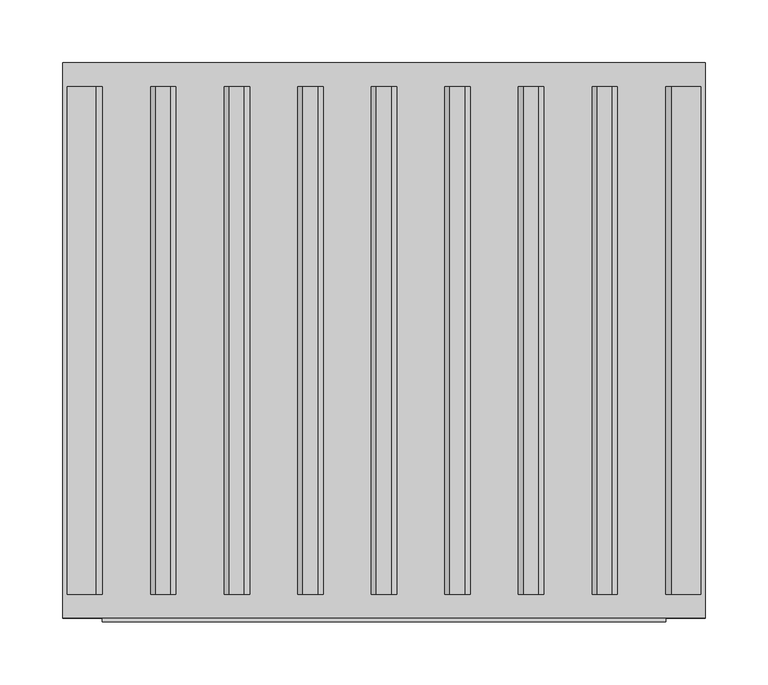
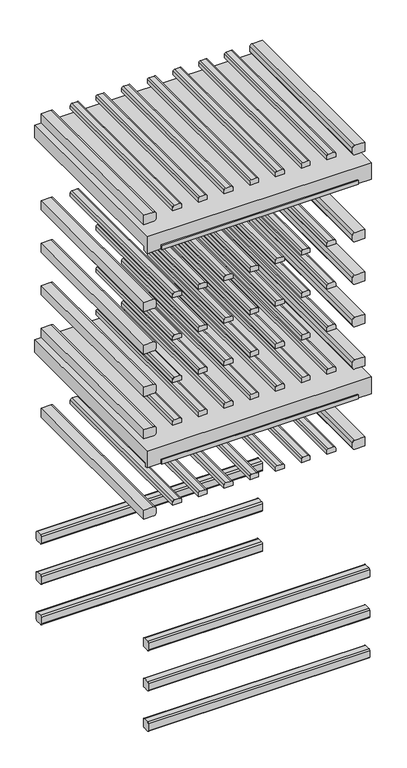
"""IFC4 building model written with IfcOpenShell, lengths in millimetres: proxy geometry, 11503590_USA_KWT2602Vi : 36260205_USA_11503590_KWT2602Vi."""

from ifc_helpers import new_model, si_unit, point, frame, frame_2d, origin, place, context, project, spatial, polyline, circle_curve, trimmed, segment, composite_curve, outline, extrude, faceted_brep, source, transform, mapped, element, save


def specialty_equipment_b9ffa979(model_context):
    return source(origin(), model_context, "Body", "SolidModel", [
        extrude(outline(composite_curve([segment(polyline([(884.0, -252.0), (862.0, -252.0), (862.0, -229.0)]), True, "CONTINUOUS"), segment(trimmed(circle_curve(frame_2d((867.0, -229.0)), 5.0), [point((862.0, -229.0))], [point((867.0, -224.0))], False, "CARTESIAN"), True, "CONTINUOUS"), segment(polyline([(867.0, -224.0), (879.0, -224.0)]), True, "CONTINUOUS"), segment(trimmed(circle_curve(frame_2d((879.0, -229.0)), 5.0), [point((879.0, -224.0))], [point((884.0, -229.0))], False, "CARTESIAN"), True, "CONTINUOUS"), segment(polyline([(884.0, -229.0), (884.0, -252.0)]), True, "CONTINUOUS")], self_intersect=False)), frame((0.0, 69.0, 0.0), z_axis=(0.0, 1.0, 0.0), x_axis=(0.0, 0.0, 1.0)), (0.0, 0.0, 1.0), 404.0),
        extrude(outline(composite_curve([segment(polyline([(880.0, -185.5), (872.039218, -185.5), (872.039218, -165.5), (880.0, -165.5)]), True, "CONTINUOUS"), segment(trimmed(circle_curve(frame_2d((880.0, -169.5)), 4.0), [point((880.0, -165.5))], [point((884.0, -169.5))], False, "CARTESIAN"), True, "CONTINUOUS"), segment(polyline([(884.0, -169.5), (884.0, -181.5)]), True, "CONTINUOUS"), segment(trimmed(circle_curve(frame_2d((880.0, -181.5)), 4.0), [point((884.0, -181.5))], [point((880.0, -185.5))], False, "CARTESIAN"), True, "CONTINUOUS")], self_intersect=False)), frame((0.0, 69.0, 0.0), z_axis=(0.0, 1.0, 0.0), x_axis=(0.0, 0.0, 1.0)), (0.0, 0.0, 1.0), 404.0),
        extrude(outline(composite_curve([segment(polyline([(884.0, 252.0), (884.0, 229.0)]), True, "CONTINUOUS"), segment(trimmed(circle_curve(frame_2d((879.0, 229.0)), 5.0), [point((884.0, 229.0))], [point((879.0, 224.0))], False, "CARTESIAN"), True, "CONTINUOUS"), segment(polyline([(879.0, 224.0), (867.0, 224.0)]), True, "CONTINUOUS"), segment(trimmed(circle_curve(frame_2d((867.0, 229.0)), 5.0), [point((867.0, 224.0))], [point((862.0, 229.0))], False, "CARTESIAN"), True, "CONTINUOUS"), segment(polyline([(862.0, 229.0), (862.0, 252.0), (884.0, 252.0)]), True, "CONTINUOUS")], self_intersect=False)), frame((0.0, 69.0, 0.0), z_axis=(0.0, 1.0, 0.0), x_axis=(0.0, 0.0, 1.0)), (0.0, 0.0, 1.0), 404.0),
        extrude(outline(composite_curve([segment(polyline([(880.0, -127.0), (872.039218, -127.0), (872.039218, -107.0), (880.0, -107.0)]), True, "CONTINUOUS"), segment(trimmed(circle_curve(frame_2d((880.0, -111.0)), 4.0), [point((880.0, -107.0))], [point((884.0, -111.0))], False, "CARTESIAN"), True, "CONTINUOUS"), segment(polyline([(884.0, -111.0), (884.0, -123.0)]), True, "CONTINUOUS"), segment(trimmed(circle_curve(frame_2d((880.0, -123.0)), 4.0), [point((884.0, -123.0))], [point((880.0, -127.0))], False, "CARTESIAN"), True, "CONTINUOUS")], self_intersect=False)), frame((0.0, 69.0, 0.0), z_axis=(0.0, 1.0, 0.0), x_axis=(0.0, 0.0, 1.0)), (0.0, 0.0, 1.0), 404.0),
        extrude(outline(composite_curve([segment(polyline([(880.0, -68.5), (872.039218, -68.5), (872.039218, -48.5), (880.0, -48.5)]), True, "CONTINUOUS"), segment(trimmed(circle_curve(frame_2d((880.0, -52.5)), 4.0), [point((880.0, -48.5))], [point((884.0, -52.5))], False, "CARTESIAN"), True, "CONTINUOUS"), segment(polyline([(884.0, -52.5), (884.0, -64.5)]), True, "CONTINUOUS"), segment(trimmed(circle_curve(frame_2d((880.0, -64.5)), 4.0), [point((884.0, -64.5))], [point((880.0, -68.5))], False, "CARTESIAN"), True, "CONTINUOUS")], self_intersect=False)), frame((0.0, 69.0, 0.0), z_axis=(0.0, 1.0, 0.0), x_axis=(0.0, 0.0, 1.0)), (0.0, 0.0, 1.0), 404.0),
        extrude(outline(composite_curve([segment(polyline([(880.0, -10.0), (872.039218, -10.0), (872.039218, 10.0), (880.0, 10.0)]), True, "CONTINUOUS"), segment(trimmed(circle_curve(frame_2d((880.0, 6.0)), 4.0), [point((880.0, 10.0))], [point((884.0, 6.0))], False, "CARTESIAN"), True, "CONTINUOUS"), segment(polyline([(884.0, 6.0), (884.0, -6.0)]), True, "CONTINUOUS"), segment(trimmed(circle_curve(frame_2d((880.0, -6.0)), 4.0), [point((884.0, -6.0))], [point((880.0, -10.0))], False, "CARTESIAN"), True, "CONTINUOUS")], self_intersect=False)), frame((0.0, 69.0, 0.0), z_axis=(0.0, 1.0, 0.0), x_axis=(0.0, 0.0, 1.0)), (0.0, 0.0, 1.0), 404.0),
        extrude(outline(composite_curve([segment(polyline([(880.0, 48.5), (872.039218, 48.5), (872.039218, 68.5), (880.0, 68.5)]), True, "CONTINUOUS"), segment(trimmed(circle_curve(frame_2d((880.0, 64.5)), 4.0), [point((880.0, 68.5))], [point((884.0, 64.5))], False, "CARTESIAN"), True, "CONTINUOUS"), segment(polyline([(884.0, 64.5), (884.0, 52.5)]), True, "CONTINUOUS"), segment(trimmed(circle_curve(frame_2d((880.0, 52.5)), 4.0), [point((884.0, 52.5))], [point((880.0, 48.5))], False, "CARTESIAN"), True, "CONTINUOUS")], self_intersect=False)), frame((0.0, 69.0, 0.0), z_axis=(0.0, 1.0, 0.0), x_axis=(0.0, 0.0, 1.0)), (0.0, 0.0, 1.0), 404.0),
        extrude(outline(composite_curve([segment(polyline([(880.0, 107.0), (872.039218, 107.0), (872.039218, 127.0), (880.0, 127.0)]), True, "CONTINUOUS"), segment(trimmed(circle_curve(frame_2d((880.0, 123.0)), 4.0), [point((880.0, 127.0))], [point((884.0, 123.0))], False, "CARTESIAN"), True, "CONTINUOUS"), segment(polyline([(884.0, 123.0), (884.0, 111.0)]), True, "CONTINUOUS"), segment(trimmed(circle_curve(frame_2d((880.0, 111.0)), 4.0), [point((884.0, 111.0))], [point((880.0, 107.0))], False, "CARTESIAN"), True, "CONTINUOUS")], self_intersect=False)), frame((0.0, 69.0, 0.0), z_axis=(0.0, 1.0, 0.0), x_axis=(0.0, 0.0, 1.0)), (0.0, 0.0, 1.0), 404.0),
        extrude(outline(composite_curve([segment(polyline([(880.0, 165.5), (872.039218, 165.5), (872.039218, 185.5), (880.0, 185.5)]), True, "CONTINUOUS"), segment(trimmed(circle_curve(frame_2d((880.0, 181.5)), 4.0), [point((880.0, 185.5))], [point((884.0, 181.5))], False, "CARTESIAN"), True, "CONTINUOUS"), segment(polyline([(884.0, 181.5), (884.0, 169.5)]), True, "CONTINUOUS"), segment(trimmed(circle_curve(frame_2d((880.0, 169.5)), 4.0), [point((884.0, 169.5))], [point((880.0, 165.5))], False, "CARTESIAN"), True, "CONTINUOUS")], self_intersect=False)), frame((0.0, 69.0, 0.0), z_axis=(0.0, 1.0, 0.0), x_axis=(0.0, 0.0, 1.0)), (0.0, 0.0, 1.0), 404.0),
        extrude(outline(composite_curve([segment(polyline([(1077.0009591, -252.0), (1055.0, -252.0), (1055.0, -229.0)]), True, "CONTINUOUS"), segment(trimmed(circle_curve(frame_2d((1060.0, -229.0)), 5.0), [point((1055.0, -229.0))], [point((1060.0, -224.0))], False, "CARTESIAN"), True, "CONTINUOUS"), segment(polyline([(1060.0, -224.0), (1072.0009591, -224.0)]), True, "CONTINUOUS"), segment(trimmed(circle_curve(frame_2d((1072.0009591, -229.0)), 5.0), [point((1072.0009591, -224.0))], [point((1077.0009591, -229.0))], False, "CARTESIAN"), True, "CONTINUOUS"), segment(polyline([(1077.0009591, -229.0), (1077.0009591, -252.0)]), True, "CONTINUOUS")], self_intersect=False)), frame((0.0, 69.0, 0.0), z_axis=(0.0, 1.0, 0.0), x_axis=(0.0, 0.0, 1.0)), (0.0, 0.0, 1.0), 404.0),
        extrude(outline(composite_curve([segment(polyline([(1073.0009591, -185.5), (1065.039218, -185.5), (1065.039218, -165.5), (1073.0009591, -165.5)]), True, "CONTINUOUS"), segment(trimmed(circle_curve(frame_2d((1073.0009591, -169.5)), 4.0), [point((1073.0009591, -165.5))], [point((1077.0009591, -169.5))], False, "CARTESIAN"), True, "CONTINUOUS"), segment(polyline([(1077.0009591, -169.5), (1077.0009591, -181.5)]), True, "CONTINUOUS"), segment(trimmed(circle_curve(frame_2d((1073.0009591, -181.5)), 4.0), [point((1077.0009591, -181.5))], [point((1073.0009591, -185.5))], False, "CARTESIAN"), True, "CONTINUOUS")], self_intersect=False)), frame((0.0, 69.0, 0.0), z_axis=(0.0, 1.0, 0.0), x_axis=(0.0, 0.0, 1.0)), (0.0, 0.0, 1.0), 404.0),
        extrude(outline(composite_curve([segment(polyline([(1077.0009591, 252.0), (1077.0009591, 229.0)]), True, "CONTINUOUS"), segment(trimmed(circle_curve(frame_2d((1072.0009591, 229.0)), 5.0), [point((1077.0009591, 229.0))], [point((1072.0009591, 224.0))], False, "CARTESIAN"), True, "CONTINUOUS"), segment(polyline([(1072.0009591, 224.0), (1060.0, 224.0)]), True, "CONTINUOUS"), segment(trimmed(circle_curve(frame_2d((1060.0, 229.0)), 5.0), [point((1060.0, 224.0))], [point((1055.0, 229.0))], False, "CARTESIAN"), True, "CONTINUOUS"), segment(polyline([(1055.0, 229.0), (1055.0, 252.0), (1077.0009591, 252.0)]), True, "CONTINUOUS")], self_intersect=False)), frame((0.0, 69.0, 0.0), z_axis=(0.0, 1.0, 0.0), x_axis=(0.0, 0.0, 1.0)), (0.0, 0.0, 1.0), 404.0),
        extrude(outline(composite_curve([segment(polyline([(1073.0009591, -127.0), (1065.039218, -127.0), (1065.039218, -107.0), (1073.0009591, -107.0)]), True, "CONTINUOUS"), segment(trimmed(circle_curve(frame_2d((1073.0009591, -111.0)), 4.0), [point((1073.0009591, -107.0))], [point((1077.0009591, -111.0))], False, "CARTESIAN"), True, "CONTINUOUS"), segment(polyline([(1077.0009591, -111.0), (1077.0009591, -123.0)]), True, "CONTINUOUS"), segment(trimmed(circle_curve(frame_2d((1073.0009591, -123.0)), 4.0), [point((1077.0009591, -123.0))], [point((1073.0009591, -127.0))], False, "CARTESIAN"), True, "CONTINUOUS")], self_intersect=False)), frame((0.0, 69.0, 0.0), z_axis=(0.0, 1.0, 0.0), x_axis=(0.0, 0.0, 1.0)), (0.0, 0.0, 1.0), 404.0),
        extrude(outline(composite_curve([segment(polyline([(1073.0009591, -68.5), (1065.039218, -68.5), (1065.039218, -48.5), (1073.0009591, -48.5)]), True, "CONTINUOUS"), segment(trimmed(circle_curve(frame_2d((1073.0009591, -52.5)), 4.0), [point((1073.0009591, -48.5))], [point((1077.0009591, -52.5))], False, "CARTESIAN"), True, "CONTINUOUS"), segment(polyline([(1077.0009591, -52.5), (1077.0009591, -64.5)]), True, "CONTINUOUS"), segment(trimmed(circle_curve(frame_2d((1073.0009591, -64.5)), 4.0), [point((1077.0009591, -64.5))], [point((1073.0009591, -68.5))], False, "CARTESIAN"), True, "CONTINUOUS")], self_intersect=False)), frame((0.0, 69.0, 0.0), z_axis=(0.0, 1.0, 0.0), x_axis=(0.0, 0.0, 1.0)), (0.0, 0.0, 1.0), 404.0),
        extrude(outline(composite_curve([segment(polyline([(1073.0009591, -10.0), (1065.039218, -10.0), (1065.039218, 10.0), (1073.0009591, 10.0)]), True, "CONTINUOUS"), segment(trimmed(circle_curve(frame_2d((1073.0009591, 6.0)), 4.0), [point((1073.0009591, 10.0))], [point((1077.0009591, 6.0))], False, "CARTESIAN"), True, "CONTINUOUS"), segment(polyline([(1077.0009591, 6.0), (1077.0009591, -6.0)]), True, "CONTINUOUS"), segment(trimmed(circle_curve(frame_2d((1073.0009591, -6.0)), 4.0), [point((1077.0009591, -6.0))], [point((1073.0009591, -10.0))], False, "CARTESIAN"), True, "CONTINUOUS")], self_intersect=False)), frame((0.0, 69.0, 0.0), z_axis=(0.0, 1.0, 0.0), x_axis=(0.0, 0.0, 1.0)), (0.0, 0.0, 1.0), 404.0),
        extrude(outline(composite_curve([segment(polyline([(1073.0009591, 48.5), (1065.039218, 48.5), (1065.039218, 68.5), (1073.0009591, 68.5)]), True, "CONTINUOUS"), segment(trimmed(circle_curve(frame_2d((1073.0009591, 64.5)), 4.0), [point((1073.0009591, 68.5))], [point((1077.0009591, 64.5))], False, "CARTESIAN"), True, "CONTINUOUS"), segment(polyline([(1077.0009591, 64.5), (1077.0009591, 52.5)]), True, "CONTINUOUS"), segment(trimmed(circle_curve(frame_2d((1073.0009591, 52.5)), 4.0), [point((1077.0009591, 52.5))], [point((1073.0009591, 48.5))], False, "CARTESIAN"), True, "CONTINUOUS")], self_intersect=False)), frame((0.0, 69.0, 0.0), z_axis=(0.0, 1.0, 0.0), x_axis=(0.0, 0.0, 1.0)), (0.0, 0.0, 1.0), 404.0),
        extrude(outline(composite_curve([segment(polyline([(1073.0009591, 107.0), (1065.039218, 107.0), (1065.039218, 127.0), (1073.0009591, 127.0)]), True, "CONTINUOUS"), segment(trimmed(circle_curve(frame_2d((1073.0009591, 123.0)), 4.0), [point((1073.0009591, 127.0))], [point((1077.0009591, 123.0))], False, "CARTESIAN"), True, "CONTINUOUS"), segment(polyline([(1077.0009591, 123.0), (1077.0009591, 111.0)]), True, "CONTINUOUS"), segment(trimmed(circle_curve(frame_2d((1073.0009591, 111.0)), 4.0), [point((1077.0009591, 111.0))], [point((1073.0009591, 107.0))], False, "CARTESIAN"), True, "CONTINUOUS")], self_intersect=False)), frame((0.0, 69.0, 0.0), z_axis=(0.0, 1.0, 0.0), x_axis=(0.0, 0.0, 1.0)), (0.0, 0.0, 1.0), 404.0),
        extrude(outline(composite_curve([segment(polyline([(1073.0009591, 165.5), (1065.039218, 165.5), (1065.039218, 185.5), (1073.0009591, 185.5)]), True, "CONTINUOUS"), segment(trimmed(circle_curve(frame_2d((1073.0009591, 181.5)), 4.0), [point((1073.0009591, 185.5))], [point((1077.0009591, 181.5))], False, "CARTESIAN"), True, "CONTINUOUS"), segment(polyline([(1077.0009591, 181.5), (1077.0009591, 169.5)]), True, "CONTINUOUS"), segment(trimmed(circle_curve(frame_2d((1073.0009591, 169.5)), 4.0), [point((1077.0009591, 169.5))], [point((1073.0009591, 165.5))], False, "CARTESIAN"), True, "CONTINUOUS")], self_intersect=False)), frame((0.0, 69.0, 0.0), z_axis=(0.0, 1.0, 0.0), x_axis=(0.0, 0.0, 1.0)), (0.0, 0.0, 1.0), 404.0),
        extrude(outline(composite_curve([segment(polyline([(1179.0, -252.0), (1157.0, -252.0), (1157.0, -229.0)]), True, "CONTINUOUS"), segment(trimmed(circle_curve(frame_2d((1162.0, -229.0)), 5.0), [point((1157.0, -229.0))], [point((1162.0, -224.0))], False, "CARTESIAN"), True, "CONTINUOUS"), segment(polyline([(1162.0, -224.0), (1174.0, -224.0)]), True, "CONTINUOUS"), segment(trimmed(circle_curve(frame_2d((1174.0, -229.0)), 5.0), [point((1174.0, -224.0))], [point((1179.0, -229.0))], False, "CARTESIAN"), True, "CONTINUOUS"), segment(polyline([(1179.0, -229.0), (1179.0, -252.0)]), True, "CONTINUOUS")], self_intersect=False)), frame((0.0, 69.0, 0.0), z_axis=(0.0, 1.0, 0.0), x_axis=(0.0, 0.0, 1.0)), (0.0, 0.0, 1.0), 404.0),
        extrude(outline(composite_curve([segment(polyline([(1175.0, -185.5), (1167.039218, -185.5), (1167.039218, -165.5), (1175.0, -165.5)]), True, "CONTINUOUS"), segment(trimmed(circle_curve(frame_2d((1175.0, -169.5)), 4.0), [point((1175.0, -165.5))], [point((1179.0, -169.5))], False, "CARTESIAN"), True, "CONTINUOUS"), segment(polyline([(1179.0, -169.5), (1179.0, -181.5)]), True, "CONTINUOUS"), segment(trimmed(circle_curve(frame_2d((1175.0, -181.5)), 4.0), [point((1179.0, -181.5))], [point((1175.0, -185.5))], False, "CARTESIAN"), True, "CONTINUOUS")], self_intersect=False)), frame((0.0, 69.0, 0.0), z_axis=(0.0, 1.0, 0.0), x_axis=(0.0, 0.0, 1.0)), (0.0, 0.0, 1.0), 404.0),
        extrude(outline(composite_curve([segment(polyline([(1179.0, 252.0), (1179.0, 229.0)]), True, "CONTINUOUS"), segment(trimmed(circle_curve(frame_2d((1174.0, 229.0)), 5.0), [point((1179.0, 229.0))], [point((1174.0, 224.0))], False, "CARTESIAN"), True, "CONTINUOUS"), segment(polyline([(1174.0, 224.0), (1162.0, 224.0)]), True, "CONTINUOUS"), segment(trimmed(circle_curve(frame_2d((1162.0, 229.0)), 5.0), [point((1162.0, 224.0))], [point((1157.0, 229.0))], False, "CARTESIAN"), True, "CONTINUOUS"), segment(polyline([(1157.0, 229.0), (1157.0, 252.0), (1179.0, 252.0)]), True, "CONTINUOUS")], self_intersect=False)), frame((0.0, 69.0, 0.0), z_axis=(0.0, 1.0, 0.0), x_axis=(0.0, 0.0, 1.0)), (0.0, 0.0, 1.0), 404.0),
        extrude(outline(composite_curve([segment(polyline([(1175.0, -127.0), (1167.039218, -127.0), (1167.039218, -107.0), (1175.0, -107.0)]), True, "CONTINUOUS"), segment(trimmed(circle_curve(frame_2d((1175.0, -111.0)), 4.0), [point((1175.0, -107.0))], [point((1179.0, -111.0))], False, "CARTESIAN"), True, "CONTINUOUS"), segment(polyline([(1179.0, -111.0), (1179.0, -123.0)]), True, "CONTINUOUS"), segment(trimmed(circle_curve(frame_2d((1175.0, -123.0)), 4.0), [point((1179.0, -123.0))], [point((1175.0, -127.0))], False, "CARTESIAN"), True, "CONTINUOUS")], self_intersect=False)), frame((0.0, 69.0, 0.0), z_axis=(0.0, 1.0, 0.0), x_axis=(0.0, 0.0, 1.0)), (0.0, 0.0, 1.0), 404.0),
        extrude(outline(composite_curve([segment(polyline([(1175.0, -68.5), (1167.039218, -68.5), (1167.039218, -48.5), (1175.0, -48.5)]), True, "CONTINUOUS"), segment(trimmed(circle_curve(frame_2d((1175.0, -52.5)), 4.0), [point((1175.0, -48.5))], [point((1179.0, -52.5))], False, "CARTESIAN"), True, "CONTINUOUS"), segment(polyline([(1179.0, -52.5), (1179.0, -64.5)]), True, "CONTINUOUS"), segment(trimmed(circle_curve(frame_2d((1175.0, -64.5)), 4.0), [point((1179.0, -64.5))], [point((1175.0, -68.5))], False, "CARTESIAN"), True, "CONTINUOUS")], self_intersect=False)), frame((0.0, 69.0, 0.0), z_axis=(0.0, 1.0, 0.0), x_axis=(0.0, 0.0, 1.0)), (0.0, 0.0, 1.0), 404.0),
        extrude(outline(composite_curve([segment(polyline([(1175.0, -10.0), (1167.039218, -10.0), (1167.039218, 10.0), (1175.0, 10.0)]), True, "CONTINUOUS"), segment(trimmed(circle_curve(frame_2d((1175.0, 6.0)), 4.0), [point((1175.0, 10.0))], [point((1179.0, 6.0))], False, "CARTESIAN"), True, "CONTINUOUS"), segment(polyline([(1179.0, 6.0), (1179.0, -6.0)]), True, "CONTINUOUS"), segment(trimmed(circle_curve(frame_2d((1175.0, -6.0)), 4.0), [point((1179.0, -6.0))], [point((1175.0, -10.0))], False, "CARTESIAN"), True, "CONTINUOUS")], self_intersect=False)), frame((0.0, 69.0, 0.0), z_axis=(0.0, 1.0, 0.0), x_axis=(0.0, 0.0, 1.0)), (0.0, 0.0, 1.0), 404.0),
        extrude(outline(composite_curve([segment(polyline([(1175.0, 48.5), (1167.039218, 48.5), (1167.039218, 68.5), (1175.0, 68.5)]), True, "CONTINUOUS"), segment(trimmed(circle_curve(frame_2d((1175.0, 64.5)), 4.0), [point((1175.0, 68.5))], [point((1179.0, 64.5))], False, "CARTESIAN"), True, "CONTINUOUS"), segment(polyline([(1179.0, 64.5), (1179.0, 52.5)]), True, "CONTINUOUS"), segment(trimmed(circle_curve(frame_2d((1175.0, 52.5)), 4.0), [point((1179.0, 52.5))], [point((1175.0, 48.5))], False, "CARTESIAN"), True, "CONTINUOUS")], self_intersect=False)), frame((0.0, 69.0, 0.0), z_axis=(0.0, 1.0, 0.0), x_axis=(0.0, 0.0, 1.0)), (0.0, 0.0, 1.0), 404.0),
        extrude(outline(composite_curve([segment(polyline([(1175.0, 107.0), (1167.039218, 107.0), (1167.039218, 127.0), (1175.0, 127.0)]), True, "CONTINUOUS"), segment(trimmed(circle_curve(frame_2d((1175.0, 123.0)), 4.0), [point((1175.0, 127.0))], [point((1179.0, 123.0))], False, "CARTESIAN"), True, "CONTINUOUS"), segment(polyline([(1179.0, 123.0), (1179.0, 111.0)]), True, "CONTINUOUS"), segment(trimmed(circle_curve(frame_2d((1175.0, 111.0)), 4.0), [point((1179.0, 111.0))], [point((1175.0, 107.0))], False, "CARTESIAN"), True, "CONTINUOUS")], self_intersect=False)), frame((0.0, 69.0, 0.0), z_axis=(0.0, 1.0, 0.0), x_axis=(0.0, 0.0, 1.0)), (0.0, 0.0, 1.0), 404.0),
        extrude(outline(composite_curve([segment(polyline([(1175.0, 165.5), (1167.039218, 165.5), (1167.039218, 185.5), (1175.0, 185.5)]), True, "CONTINUOUS"), segment(trimmed(circle_curve(frame_2d((1175.0, 181.5)), 4.0), [point((1175.0, 185.5))], [point((1179.0, 181.5))], False, "CARTESIAN"), True, "CONTINUOUS"), segment(polyline([(1179.0, 181.5), (1179.0, 169.5)]), True, "CONTINUOUS"), segment(trimmed(circle_curve(frame_2d((1175.0, 169.5)), 4.0), [point((1179.0, 169.5))], [point((1175.0, 165.5))], False, "CARTESIAN"), True, "CONTINUOUS")], self_intersect=False)), frame((0.0, 69.0, 0.0), z_axis=(0.0, 1.0, 0.0), x_axis=(0.0, 0.0, 1.0)), (0.0, 0.0, 1.0), 404.0),
        extrude(outline(composite_curve([segment(polyline([(1281.0, -252.0), (1259.0, -252.0), (1259.0, -229.0)]), True, "CONTINUOUS"), segment(trimmed(circle_curve(frame_2d((1264.0, -229.0)), 5.0), [point((1259.0, -229.0))], [point((1264.0, -224.0))], False, "CARTESIAN"), True, "CONTINUOUS"), segment(polyline([(1264.0, -224.0), (1276.0, -224.0)]), True, "CONTINUOUS"), segment(trimmed(circle_curve(frame_2d((1276.0, -229.0)), 5.0), [point((1276.0, -224.0))], [point((1281.0, -229.0))], False, "CARTESIAN"), True, "CONTINUOUS"), segment(polyline([(1281.0, -229.0), (1281.0, -252.0)]), True, "CONTINUOUS")], self_intersect=False)), frame((0.0, 69.0, 0.0), z_axis=(0.0, 1.0, 0.0), x_axis=(0.0, 0.0, 1.0)), (0.0, 0.0, 1.0), 404.0),
        extrude(outline(composite_curve([segment(polyline([(1277.0, -185.5), (1269.039218, -185.5), (1269.039218, -165.5), (1277.0, -165.5)]), True, "CONTINUOUS"), segment(trimmed(circle_curve(frame_2d((1277.0, -169.5)), 4.0), [point((1277.0, -165.5))], [point((1281.0, -169.5))], False, "CARTESIAN"), True, "CONTINUOUS"), segment(polyline([(1281.0, -169.5), (1281.0, -181.5)]), True, "CONTINUOUS"), segment(trimmed(circle_curve(frame_2d((1277.0, -181.5)), 4.0), [point((1281.0, -181.5))], [point((1277.0, -185.5))], False, "CARTESIAN"), True, "CONTINUOUS")], self_intersect=False)), frame((0.0, 69.0, 0.0), z_axis=(0.0, 1.0, 0.0), x_axis=(0.0, 0.0, 1.0)), (0.0, 0.0, 1.0), 404.0),
        extrude(outline(composite_curve([segment(polyline([(1281.0, 252.0), (1281.0, 229.0)]), True, "CONTINUOUS"), segment(trimmed(circle_curve(frame_2d((1276.0, 229.0)), 5.0), [point((1281.0, 229.0))], [point((1276.0, 224.0))], False, "CARTESIAN"), True, "CONTINUOUS"), segment(polyline([(1276.0, 224.0), (1264.0, 224.0)]), True, "CONTINUOUS"), segment(trimmed(circle_curve(frame_2d((1264.0, 229.0)), 5.0), [point((1264.0, 224.0))], [point((1259.0, 229.0))], False, "CARTESIAN"), True, "CONTINUOUS"), segment(polyline([(1259.0, 229.0), (1259.0, 252.0), (1281.0, 252.0)]), True, "CONTINUOUS")], self_intersect=False)), frame((0.0, 69.0, 0.0), z_axis=(0.0, 1.0, 0.0), x_axis=(0.0, 0.0, 1.0)), (0.0, 0.0, 1.0), 404.0),
        extrude(outline(composite_curve([segment(polyline([(1277.0, -127.0), (1269.039218, -127.0), (1269.039218, -107.0), (1277.0, -107.0)]), True, "CONTINUOUS"), segment(trimmed(circle_curve(frame_2d((1277.0, -111.0)), 4.0), [point((1277.0, -107.0))], [point((1281.0, -111.0))], False, "CARTESIAN"), True, "CONTINUOUS"), segment(polyline([(1281.0, -111.0), (1281.0, -123.0)]), True, "CONTINUOUS"), segment(trimmed(circle_curve(frame_2d((1277.0, -123.0)), 4.0), [point((1281.0, -123.0))], [point((1277.0, -127.0))], False, "CARTESIAN"), True, "CONTINUOUS")], self_intersect=False)), frame((0.0, 69.0, 0.0), z_axis=(0.0, 1.0, 0.0), x_axis=(0.0, 0.0, 1.0)), (0.0, 0.0, 1.0), 404.0),
        extrude(outline(composite_curve([segment(polyline([(1277.0, -68.5), (1269.039218, -68.5), (1269.039218, -48.5), (1277.0, -48.5)]), True, "CONTINUOUS"), segment(trimmed(circle_curve(frame_2d((1277.0, -52.5)), 4.0), [point((1277.0, -48.5))], [point((1281.0, -52.5))], False, "CARTESIAN"), True, "CONTINUOUS"), segment(polyline([(1281.0, -52.5), (1281.0, -64.5)]), True, "CONTINUOUS"), segment(trimmed(circle_curve(frame_2d((1277.0, -64.5)), 4.0), [point((1281.0, -64.5))], [point((1277.0, -68.5))], False, "CARTESIAN"), True, "CONTINUOUS")], self_intersect=False)), frame((0.0, 69.0, 0.0), z_axis=(0.0, 1.0, 0.0), x_axis=(0.0, 0.0, 1.0)), (0.0, 0.0, 1.0), 404.0),
        extrude(outline(composite_curve([segment(polyline([(1277.0, -10.0), (1269.039218, -10.0), (1269.039218, 10.0), (1277.0, 10.0)]), True, "CONTINUOUS"), segment(trimmed(circle_curve(frame_2d((1277.0, 6.0)), 4.0), [point((1277.0, 10.0))], [point((1281.0, 6.0))], False, "CARTESIAN"), True, "CONTINUOUS"), segment(polyline([(1281.0, 6.0), (1281.0, -6.0)]), True, "CONTINUOUS"), segment(trimmed(circle_curve(frame_2d((1277.0, -6.0)), 4.0), [point((1281.0, -6.0))], [point((1277.0, -10.0))], False, "CARTESIAN"), True, "CONTINUOUS")], self_intersect=False)), frame((0.0, 69.0, 0.0), z_axis=(0.0, 1.0, 0.0), x_axis=(0.0, 0.0, 1.0)), (0.0, 0.0, 1.0), 404.0),
        extrude(outline(composite_curve([segment(polyline([(1277.0, 48.5), (1269.039218, 48.5), (1269.039218, 68.5), (1277.0, 68.5)]), True, "CONTINUOUS"), segment(trimmed(circle_curve(frame_2d((1277.0, 64.5)), 4.0), [point((1277.0, 68.5))], [point((1281.0, 64.5))], False, "CARTESIAN"), True, "CONTINUOUS"), segment(polyline([(1281.0, 64.5), (1281.0, 52.5)]), True, "CONTINUOUS"), segment(trimmed(circle_curve(frame_2d((1277.0, 52.5)), 4.0), [point((1281.0, 52.5))], [point((1277.0, 48.5))], False, "CARTESIAN"), True, "CONTINUOUS")], self_intersect=False)), frame((0.0, 69.0, 0.0), z_axis=(0.0, 1.0, 0.0), x_axis=(0.0, 0.0, 1.0)), (0.0, 0.0, 1.0), 404.0),
        extrude(outline(composite_curve([segment(polyline([(1277.0, 107.0), (1269.039218, 107.0), (1269.039218, 127.0), (1277.0, 127.0)]), True, "CONTINUOUS"), segment(trimmed(circle_curve(frame_2d((1277.0, 123.0)), 4.0), [point((1277.0, 127.0))], [point((1281.0, 123.0))], False, "CARTESIAN"), True, "CONTINUOUS"), segment(polyline([(1281.0, 123.0), (1281.0, 111.0)]), True, "CONTINUOUS"), segment(trimmed(circle_curve(frame_2d((1277.0, 111.0)), 4.0), [point((1281.0, 111.0))], [point((1277.0, 107.0))], False, "CARTESIAN"), True, "CONTINUOUS")], self_intersect=False)), frame((0.0, 69.0, 0.0), z_axis=(0.0, 1.0, 0.0), x_axis=(0.0, 0.0, 1.0)), (0.0, 0.0, 1.0), 404.0),
        extrude(outline(composite_curve([segment(polyline([(1277.0, 165.5), (1269.039218, 165.5), (1269.039218, 185.5), (1277.0, 185.5)]), True, "CONTINUOUS"), segment(trimmed(circle_curve(frame_2d((1277.0, 181.5)), 4.0), [point((1277.0, 185.5))], [point((1281.0, 181.5))], False, "CARTESIAN"), True, "CONTINUOUS"), segment(polyline([(1281.0, 181.5), (1281.0, 169.5)]), True, "CONTINUOUS"), segment(trimmed(circle_curve(frame_2d((1277.0, 169.5)), 4.0), [point((1281.0, 169.5))], [point((1277.0, 165.5))], False, "CARTESIAN"), True, "CONTINUOUS")], self_intersect=False)), frame((0.0, 69.0, 0.0), z_axis=(0.0, 1.0, 0.0), x_axis=(0.0, 0.0, 1.0)), (0.0, 0.0, 1.0), 404.0),
        extrude(outline(composite_curve([segment(polyline([(1383.0, -252.0), (1361.0, -252.0), (1361.0, -229.0)]), True, "CONTINUOUS"), segment(trimmed(circle_curve(frame_2d((1366.0, -229.0)), 5.0), [point((1361.0, -229.0))], [point((1366.0, -224.0))], False, "CARTESIAN"), True, "CONTINUOUS"), segment(polyline([(1366.0, -224.0), (1378.0156872, -224.0)]), True, "CONTINUOUS"), segment(trimmed(circle_curve(frame_2d((1378.0156872, -228.9843128)), 4.9843128), [point((1378.0156872, -224.0))], [point((1383.0, -228.9843128))], False, "CARTESIAN"), True, "CONTINUOUS"), segment(polyline([(1383.0, -228.9843128), (1383.0, -252.0)]), True, "CONTINUOUS")], self_intersect=False)), frame((0.0, 69.0, 0.0), z_axis=(0.0, 1.0, 0.0), x_axis=(0.0, 0.0, 1.0)), (0.0, 0.0, 1.0), 404.0),
        extrude(outline(composite_curve([segment(polyline([(1379.0156872, -185.5), (1371.039218, -185.5), (1371.039218, -165.5), (1379.0156872, -165.5)]), True, "CONTINUOUS"), segment(trimmed(circle_curve(frame_2d((1379.0156872, -169.4843128)), 3.9843128), [point((1379.0156872, -165.5))], [point((1383.0, -169.4843128))], False, "CARTESIAN"), True, "CONTINUOUS"), segment(polyline([(1383.0, -169.4843128), (1383.0, -181.5156872)]), True, "CONTINUOUS"), segment(trimmed(circle_curve(frame_2d((1379.0156872, -181.5156872)), 3.9843128), [point((1383.0, -181.5156872))], [point((1379.0156872, -185.5))], False, "CARTESIAN"), True, "CONTINUOUS")], self_intersect=False)), frame((0.0, 69.0, 0.0), z_axis=(0.0, 1.0, 0.0), x_axis=(0.0, 0.0, 1.0)), (0.0, 0.0, 1.0), 404.0),
        extrude(outline(composite_curve([segment(polyline([(1383.0, 252.0), (1383.0, 228.9903675)]), True, "CONTINUOUS"), segment(trimmed(circle_curve(frame_2d((1378.0197237, 228.9903675)), 4.9802763), [point((1383.0, 228.9903675))], [point((1378.0197237, 224.0100912))], False, "CARTESIAN"), True, "CONTINUOUS"), segment(polyline([(1378.0197237, 224.0100912), (1365.9981652, 224.0100912)]), True, "CONTINUOUS"), segment(trimmed(circle_curve(frame_2d((1365.9981652, 229.0045869)), 4.9944957), [point((1365.9981652, 224.0100912))], [point((1361.0036695, 229.0045869))], False, "CARTESIAN"), True, "CONTINUOUS"), segment(polyline([(1361.0036695, 229.0045869), (1361.0036695, 252.0), (1383.0, 252.0)]), True, "CONTINUOUS")], self_intersect=False)), frame((0.0, 69.0, 0.0), z_axis=(0.0, 1.0, 0.0), x_axis=(0.0, 0.0, 1.0)), (0.0, 0.0, 1.0), 404.0),
        extrude(outline(composite_curve([segment(polyline([(1379.039218, -127.0), (1371.039218, -127.0), (1371.039218, -107.0), (1379.039218, -107.0)]), True, "CONTINUOUS"), segment(trimmed(circle_curve(frame_2d((1379.039218, -111.0)), 4.0), [point((1379.039218, -107.0))], [point((1383.039218, -111.0))], False, "CARTESIAN"), True, "CONTINUOUS"), segment(polyline([(1383.039218, -111.0), (1383.039218, -123.0)]), True, "CONTINUOUS"), segment(trimmed(circle_curve(frame_2d((1379.039218, -123.0)), 4.0), [point((1383.039218, -123.0))], [point((1379.039218, -127.0))], False, "CARTESIAN"), True, "CONTINUOUS")], self_intersect=False)), frame((0.0, 69.0, 0.0), z_axis=(0.0, 1.0, 0.0), x_axis=(0.0, 0.0, 1.0)), (0.0, 0.0, 1.0), 404.0),
        extrude(outline(composite_curve([segment(polyline([(1379.039218, -68.5), (1371.039218, -68.5), (1371.039218, -48.5), (1379.039218, -48.5)]), True, "CONTINUOUS"), segment(trimmed(circle_curve(frame_2d((1379.039218, -52.5)), 4.0), [point((1379.039218, -48.5))], [point((1383.039218, -52.5))], False, "CARTESIAN"), True, "CONTINUOUS"), segment(polyline([(1383.039218, -52.5), (1383.039218, -64.5)]), True, "CONTINUOUS"), segment(trimmed(circle_curve(frame_2d((1379.039218, -64.5)), 4.0), [point((1383.039218, -64.5))], [point((1379.039218, -68.5))], False, "CARTESIAN"), True, "CONTINUOUS")], self_intersect=False)), frame((0.0, 69.0, 0.0), z_axis=(0.0, 1.0, 0.0), x_axis=(0.0, 0.0, 1.0)), (0.0, 0.0, 1.0), 404.0),
        extrude(outline(composite_curve([segment(polyline([(1379.039218, -10.0), (1371.039218, -10.0), (1371.039218, 10.0), (1379.039218, 10.0)]), True, "CONTINUOUS"), segment(trimmed(circle_curve(frame_2d((1379.039218, 6.0)), 4.0), [point((1379.039218, 10.0))], [point((1383.039218, 6.0))], False, "CARTESIAN"), True, "CONTINUOUS"), segment(polyline([(1383.039218, 6.0), (1383.039218, -6.0)]), True, "CONTINUOUS"), segment(trimmed(circle_curve(frame_2d((1379.039218, -6.0)), 4.0), [point((1383.039218, -6.0))], [point((1379.039218, -10.0))], False, "CARTESIAN"), True, "CONTINUOUS")], self_intersect=False)), frame((0.0, 69.0, 0.0), z_axis=(0.0, 1.0, 0.0), x_axis=(0.0, 0.0, 1.0)), (0.0, 0.0, 1.0), 404.0),
        extrude(outline(composite_curve([segment(polyline([(1379.039218, 48.5), (1371.039218, 48.5), (1371.039218, 68.5), (1379.039218, 68.5)]), True, "CONTINUOUS"), segment(trimmed(circle_curve(frame_2d((1379.039218, 64.5)), 4.0), [point((1379.039218, 68.5))], [point((1383.039218, 64.5))], False, "CARTESIAN"), True, "CONTINUOUS"), segment(polyline([(1383.039218, 64.5), (1383.039218, 52.5)]), True, "CONTINUOUS"), segment(trimmed(circle_curve(frame_2d((1379.039218, 52.5)), 4.0), [point((1383.039218, 52.5))], [point((1379.039218, 48.5))], False, "CARTESIAN"), True, "CONTINUOUS")], self_intersect=False)), frame((0.0, 69.0, 0.0), z_axis=(0.0, 1.0, 0.0), x_axis=(0.0, 0.0, 1.0)), (0.0, 0.0, 1.0), 404.0),
        extrude(outline(composite_curve([segment(polyline([(1379.039218, 107.0), (1371.039218, 107.0), (1371.039218, 127.0), (1379.039218, 127.0)]), True, "CONTINUOUS"), segment(trimmed(circle_curve(frame_2d((1379.039218, 123.0)), 4.0), [point((1379.039218, 127.0))], [point((1383.039218, 123.0))], False, "CARTESIAN"), True, "CONTINUOUS"), segment(polyline([(1383.039218, 123.0), (1383.039218, 111.0)]), True, "CONTINUOUS"), segment(trimmed(circle_curve(frame_2d((1379.039218, 111.0)), 4.0), [point((1383.039218, 111.0))], [point((1379.039218, 107.0))], False, "CARTESIAN"), True, "CONTINUOUS")], self_intersect=False)), frame((0.0, 69.0, 0.0), z_axis=(0.0, 1.0, 0.0), x_axis=(0.0, 0.0, 1.0)), (0.0, 0.0, 1.0), 404.0),
        extrude(outline(composite_curve([segment(polyline([(1379.039218, 165.5), (1371.039218, 165.5), (1371.039218, 185.5), (1379.039218, 185.5)]), True, "CONTINUOUS"), segment(trimmed(circle_curve(frame_2d((1379.039218, 181.5)), 4.0), [point((1379.039218, 185.5))], [point((1383.039218, 181.5))], False, "CARTESIAN"), True, "CONTINUOUS"), segment(polyline([(1383.039218, 181.5), (1383.039218, 169.5)]), True, "CONTINUOUS"), segment(trimmed(circle_curve(frame_2d((1379.039218, 169.5)), 4.0), [point((1383.039218, 169.5))], [point((1379.039218, 165.5))], False, "CARTESIAN"), True, "CONTINUOUS")], self_intersect=False)), frame((0.0, 69.0, 0.0), z_axis=(0.0, 1.0, 0.0), x_axis=(0.0, 0.0, 1.0)), (0.0, 0.0, 1.0), 404.0),
        extrude(outline(composite_curve([segment(polyline([(1593.0, -252.0), (1571.0, -252.0), (1571.0, -229.0)]), True, "CONTINUOUS"), segment(trimmed(circle_curve(frame_2d((1576.0, -229.0)), 5.0), [point((1571.0, -229.0))], [point((1576.0, -224.0))], False, "CARTESIAN"), True, "CONTINUOUS"), segment(polyline([(1576.0, -224.0), (1588.0, -224.0)]), True, "CONTINUOUS"), segment(trimmed(circle_curve(frame_2d((1588.0, -229.0)), 5.0), [point((1588.0, -224.0))], [point((1593.0, -229.0))], False, "CARTESIAN"), True, "CONTINUOUS"), segment(polyline([(1593.0, -229.0), (1593.0, -252.0)]), True, "CONTINUOUS")], self_intersect=False)), frame((0.0, 69.0, 0.0), z_axis=(0.0, 1.0, 0.0), x_axis=(0.0, 0.0, 1.0)), (0.0, 0.0, 1.0), 404.0),
        extrude(outline(composite_curve([segment(polyline([(1589.0, -185.5), (1581.039218, -185.5), (1581.039218, -165.5), (1589.0, -165.5)]), True, "CONTINUOUS"), segment(trimmed(circle_curve(frame_2d((1589.0, -169.5)), 4.0), [point((1589.0, -165.5))], [point((1593.0, -169.5))], False, "CARTESIAN"), True, "CONTINUOUS"), segment(polyline([(1593.0, -169.5), (1593.0, -181.5)]), True, "CONTINUOUS"), segment(trimmed(circle_curve(frame_2d((1589.0, -181.5)), 4.0), [point((1593.0, -181.5))], [point((1589.0, -185.5))], False, "CARTESIAN"), True, "CONTINUOUS")], self_intersect=False)), frame((0.0, 69.0, 0.0), z_axis=(0.0, 1.0, 0.0), x_axis=(0.0, 0.0, 1.0)), (0.0, 0.0, 1.0), 404.0),
        extrude(outline(composite_curve([segment(polyline([(1593.0, 252.0), (1593.0, 229.0)]), True, "CONTINUOUS"), segment(trimmed(circle_curve(frame_2d((1588.0, 229.0)), 5.0), [point((1593.0, 229.0))], [point((1588.0, 224.0))], False, "CARTESIAN"), True, "CONTINUOUS"), segment(polyline([(1588.0, 224.0), (1576.0, 224.0)]), True, "CONTINUOUS"), segment(trimmed(circle_curve(frame_2d((1576.0, 229.0)), 5.0), [point((1576.0, 224.0))], [point((1571.0, 229.0))], False, "CARTESIAN"), True, "CONTINUOUS"), segment(polyline([(1571.0, 229.0), (1571.0, 252.0), (1593.0, 252.0)]), True, "CONTINUOUS")], self_intersect=False)), frame((0.0, 69.0, 0.0), z_axis=(0.0, 1.0, 0.0), x_axis=(0.0, 0.0, 1.0)), (0.0, 0.0, 1.0), 404.0),
        extrude(outline(composite_curve([segment(polyline([(1589.0, -127.0), (1581.039218, -127.0), (1581.039218, -107.0), (1589.0, -107.0)]), True, "CONTINUOUS"), segment(trimmed(circle_curve(frame_2d((1589.0, -111.0)), 4.0), [point((1589.0, -107.0))], [point((1593.0, -111.0))], False, "CARTESIAN"), True, "CONTINUOUS"), segment(polyline([(1593.0, -111.0), (1593.0, -123.0)]), True, "CONTINUOUS"), segment(trimmed(circle_curve(frame_2d((1589.0, -123.0)), 4.0), [point((1593.0, -123.0))], [point((1589.0, -127.0))], False, "CARTESIAN"), True, "CONTINUOUS")], self_intersect=False)), frame((0.0, 69.0, 0.0), z_axis=(0.0, 1.0, 0.0), x_axis=(0.0, 0.0, 1.0)), (0.0, 0.0, 1.0), 404.0),
        extrude(outline(composite_curve([segment(polyline([(1589.0, -68.5), (1581.039218, -68.5), (1581.039218, -48.5), (1589.0, -48.5)]), True, "CONTINUOUS"), segment(trimmed(circle_curve(frame_2d((1589.0, -52.5)), 4.0), [point((1589.0, -48.5))], [point((1593.0, -52.5))], False, "CARTESIAN"), True, "CONTINUOUS"), segment(polyline([(1593.0, -52.5), (1593.0, -64.5)]), True, "CONTINUOUS"), segment(trimmed(circle_curve(frame_2d((1589.0, -64.5)), 4.0), [point((1593.0, -64.5))], [point((1589.0, -68.5))], False, "CARTESIAN"), True, "CONTINUOUS")], self_intersect=False)), frame((0.0, 69.0, 0.0), z_axis=(0.0, 1.0, 0.0), x_axis=(0.0, 0.0, 1.0)), (0.0, 0.0, 1.0), 404.0),
        extrude(outline(composite_curve([segment(polyline([(1589.0, -10.0), (1581.039218, -10.0), (1581.039218, 10.0), (1589.0, 10.0)]), True, "CONTINUOUS"), segment(trimmed(circle_curve(frame_2d((1589.0, 6.0)), 4.0), [point((1589.0, 10.0))], [point((1593.0, 6.0))], False, "CARTESIAN"), True, "CONTINUOUS"), segment(polyline([(1593.0, 6.0), (1593.0, -6.0)]), True, "CONTINUOUS"), segment(trimmed(circle_curve(frame_2d((1589.0, -6.0)), 4.0), [point((1593.0, -6.0))], [point((1589.0, -10.0))], False, "CARTESIAN"), True, "CONTINUOUS")], self_intersect=False)), frame((0.0, 69.0, 0.0), z_axis=(0.0, 1.0, 0.0), x_axis=(0.0, 0.0, 1.0)), (0.0, 0.0, 1.0), 404.0),
        extrude(outline(composite_curve([segment(polyline([(1589.0, 48.5), (1581.039218, 48.5), (1581.039218, 68.5), (1589.0, 68.5)]), True, "CONTINUOUS"), segment(trimmed(circle_curve(frame_2d((1589.0, 64.5)), 4.0), [point((1589.0, 68.5))], [point((1593.0, 64.5))], False, "CARTESIAN"), True, "CONTINUOUS"), segment(polyline([(1593.0, 64.5), (1593.0, 52.5)]), True, "CONTINUOUS"), segment(trimmed(circle_curve(frame_2d((1589.0, 52.5)), 4.0), [point((1593.0, 52.5))], [point((1589.0, 48.5))], False, "CARTESIAN"), True, "CONTINUOUS")], self_intersect=False)), frame((0.0, 69.0, 0.0), z_axis=(0.0, 1.0, 0.0), x_axis=(0.0, 0.0, 1.0)), (0.0, 0.0, 1.0), 404.0),
        extrude(outline(composite_curve([segment(polyline([(1589.0, 107.0), (1581.039218, 107.0), (1581.039218, 127.0), (1589.0, 127.0)]), True, "CONTINUOUS"), segment(trimmed(circle_curve(frame_2d((1589.0, 123.0)), 4.0), [point((1589.0, 127.0))], [point((1593.0, 123.0))], False, "CARTESIAN"), True, "CONTINUOUS"), segment(polyline([(1593.0, 123.0), (1593.0, 111.0)]), True, "CONTINUOUS"), segment(trimmed(circle_curve(frame_2d((1589.0, 111.0)), 4.0), [point((1593.0, 111.0))], [point((1589.0, 107.0))], False, "CARTESIAN"), True, "CONTINUOUS")], self_intersect=False)), frame((0.0, 69.0, 0.0), z_axis=(0.0, 1.0, 0.0), x_axis=(0.0, 0.0, 1.0)), (0.0, 0.0, 1.0), 404.0),
        extrude(outline(composite_curve([segment(polyline([(1589.0, 165.5), (1581.039218, 165.5), (1581.039218, 185.5), (1589.0, 185.5)]), True, "CONTINUOUS"), segment(trimmed(circle_curve(frame_2d((1589.0, 181.5)), 4.0), [point((1589.0, 185.5))], [point((1593.0, 181.5))], False, "CARTESIAN"), True, "CONTINUOUS"), segment(polyline([(1593.0, 181.5), (1593.0, 169.5)]), True, "CONTINUOUS"), segment(trimmed(circle_curve(frame_2d((1589.0, 169.5)), 4.0), [point((1593.0, 169.5))], [point((1589.0, 165.5))], False, "CARTESIAN"), True, "CONTINUOUS")], self_intersect=False)), frame((0.0, 69.0, 0.0), z_axis=(0.0, 1.0, 0.0), x_axis=(0.0, 0.0, 1.0)), (0.0, 0.0, 1.0), 404.0),
        faceted_brep([(255.5, 55.0, 998.0), (255.5, 55.0, 1008.0), (255.5, 492.0, 1008.0), (255.5, 492.0, 1038.0), (255.5, 50.0, 1038.0), (255.5, 50.0, 998.0), (-255.5, 50.0, 998.0), (-255.5, 50.0, 1038.0), (-255.5, 492.0, 1038.0), (-255.5, 492.0, 1008.0), (-255.5, 55.0, 1008.0), (-255.5, 55.0, 998.0), (224.0, 50.0, 998.0), (224.0, 47.0, 998.0), (-224.0, 47.0, 998.0), (-224.0, 50.0, 998.0), (-224.0, 50.0, 1008.0), (224.0, 50.0, 1008.0), (-224.0, 47.0, 1008.0), (224.0, 47.0, 1008.0)], [[[0, 1, 2, 3, 4, 5]], [[6, 7, 8, 9, 10, 11]], [[11, 0, 5, 12, 13, 14, 15, 6]], [[1, 0, 11, 10]], [[2, 1, 10, 9]], [[3, 2, 9, 8]], [[7, 4, 3, 8]], [[6, 15, 16, 17, 12, 5, 4, 7]], [[17, 16, 18, 19]], [[14, 13, 19, 18]], [[16, 15, 14, 18]], [[12, 17, 19, 13]]]),
        faceted_brep([(255.5, 62.0, 1514.0), (255.5, 62.0, 1524.0), (255.5, 492.0, 1524.0), (255.5, 492.0, 1554.0), (255.5, 50.0, 1554.0), (255.5, 50.0, 1514.0), (-255.5, 50.0, 1514.0), (-255.5, 50.0, 1554.0), (-255.5, 492.0, 1554.0), (-255.5, 492.0, 1524.0), (-255.5, 62.0, 1524.0), (-255.5, 62.0, 1514.0), (224.0, 50.0, 1524.0), (224.0, 50.0, 1514.0), (-224.0, 50.0, 1514.0), (-224.0, 50.0, 1524.0), (224.0, 47.0, 1514.0), (-224.0, 47.0, 1514.0), (-224.0, 47.0, 1524.0), (224.0, 47.0, 1524.0)], [[[0, 1, 2, 3, 4, 5]], [[6, 7, 8, 9, 10, 11]], [[12, 13, 5, 4, 7, 6, 14, 15]], [[11, 0, 5, 13, 16, 17, 14, 6]], [[1, 0, 11, 10]], [[2, 1, 10, 9]], [[3, 2, 9, 8]], [[7, 4, 3, 8]], [[12, 15, 18, 19]], [[17, 16, 19, 18]], [[15, 14, 17, 18]], [[13, 12, 19, 16]]]),
        extrude(outline(composite_curve([segment(polyline([(53.0, 384.0), (66.0, 384.0)]), True, "CONTINUOUS"), segment(trimmed(circle_curve(frame_2d((66.0, 381.0)), 3.0), [point((66.0, 384.0))], [point((69.0, 381.0))], False, "CARTESIAN"), True, "CONTINUOUS"), segment(polyline([(69.0, 381.0), (69.0, 365.0)]), True, "CONTINUOUS"), segment(trimmed(circle_curve(frame_2d((66.0, 365.0)), 3.0), [point((69.0, 365.0))], [point((66.0, 362.0))], False, "CARTESIAN"), True, "CONTINUOUS"), segment(polyline([(66.0, 362.0), (53.0, 362.0)]), True, "CONTINUOUS"), segment(trimmed(circle_curve(frame_2d((53.0, 365.0)), 3.0), [point((53.0, 362.0))], [point((50.0, 365.0))], False, "CARTESIAN"), True, "CONTINUOUS"), segment(polyline([(50.0, 365.0), (50.0, 381.0)]), True, "CONTINUOUS"), segment(trimmed(circle_curve(frame_2d((53.0, 381.0)), 3.0), [point((50.0, 381.0))], [point((53.0, 384.0))], False, "CARTESIAN"), True, "CONTINUOUS")], self_intersect=False)), frame((-252.0, 0.0, 0.0), z_axis=(1.0, 0.0, 0.0), x_axis=(0.0, 1.0, 0.0)), (0.0, 0.0, 1.0), 504.0),
        extrude(outline(composite_curve([segment(polyline([(476.0, 384.0), (489.0, 384.0)]), True, "CONTINUOUS"), segment(trimmed(circle_curve(frame_2d((489.0, 381.0)), 3.0), [point((489.0, 384.0))], [point((492.0, 381.0))], False, "CARTESIAN"), True, "CONTINUOUS"), segment(polyline([(492.0, 381.0), (492.0, 365.0)]), True, "CONTINUOUS"), segment(trimmed(circle_curve(frame_2d((489.0, 365.0)), 3.0), [point((492.0, 365.0))], [point((489.0, 362.0))], False, "CARTESIAN"), True, "CONTINUOUS"), segment(polyline([(489.0, 362.0), (476.0, 362.0)]), True, "CONTINUOUS"), segment(trimmed(circle_curve(frame_2d((476.0, 365.0)), 3.0), [point((476.0, 362.0))], [point((473.0, 365.0))], False, "CARTESIAN"), True, "CONTINUOUS"), segment(polyline([(473.0, 365.0), (473.0, 381.0)]), True, "CONTINUOUS"), segment(trimmed(circle_curve(frame_2d((476.0, 381.0)), 3.0), [point((473.0, 381.0))], [point((476.0, 384.0))], False, "CARTESIAN"), True, "CONTINUOUS")], self_intersect=False)), frame((-252.0, 0.0, 0.0), z_axis=(1.0, 0.0, 0.0), x_axis=(0.0, 1.0, 0.0)), (0.0, 0.0, 1.0), 504.0),
        extrude(outline(composite_curve([segment(polyline([(53.0, 481.0), (66.0, 481.0)]), True, "CONTINUOUS"), segment(trimmed(circle_curve(frame_2d((66.0, 478.0)), 3.0), [point((66.0, 481.0))], [point((69.0, 478.0))], False, "CARTESIAN"), True, "CONTINUOUS"), segment(polyline([(69.0, 478.0), (69.0, 462.0)]), True, "CONTINUOUS"), segment(trimmed(circle_curve(frame_2d((66.0, 462.0)), 3.0), [point((69.0, 462.0))], [point((66.0, 459.0))], False, "CARTESIAN"), True, "CONTINUOUS"), segment(polyline([(66.0, 459.0), (53.0, 459.0)]), True, "CONTINUOUS"), segment(trimmed(circle_curve(frame_2d((53.0, 462.0)), 3.0), [point((53.0, 459.0))], [point((50.0, 462.0))], False, "CARTESIAN"), True, "CONTINUOUS"), segment(polyline([(50.0, 462.0), (50.0, 478.0)]), True, "CONTINUOUS"), segment(trimmed(circle_curve(frame_2d((53.0, 478.0)), 3.0), [point((50.0, 478.0))], [point((53.0, 481.0))], False, "CARTESIAN"), True, "CONTINUOUS")], self_intersect=False)), frame((-252.0, 0.0, 0.0), z_axis=(1.0, 0.0, 0.0), x_axis=(0.0, 1.0, 0.0)), (0.0, 0.0, 1.0), 504.0),
        extrude(outline(composite_curve([segment(polyline([(476.0, 481.0), (489.0, 481.0)]), True, "CONTINUOUS"), segment(trimmed(circle_curve(frame_2d((489.0, 478.0)), 3.0), [point((489.0, 481.0))], [point((492.0, 478.0))], False, "CARTESIAN"), True, "CONTINUOUS"), segment(polyline([(492.0, 478.0), (492.0, 462.0)]), True, "CONTINUOUS"), segment(trimmed(circle_curve(frame_2d((489.0, 462.0)), 3.0), [point((492.0, 462.0))], [point((489.0, 459.0))], False, "CARTESIAN"), True, "CONTINUOUS"), segment(polyline([(489.0, 459.0), (476.0, 459.0)]), True, "CONTINUOUS"), segment(trimmed(circle_curve(frame_2d((476.0, 462.0)), 3.0), [point((476.0, 459.0))], [point((473.0, 462.0))], False, "CARTESIAN"), True, "CONTINUOUS"), segment(polyline([(473.0, 462.0), (473.0, 478.0)]), True, "CONTINUOUS"), segment(trimmed(circle_curve(frame_2d((476.0, 478.0)), 3.0), [point((473.0, 478.0))], [point((476.0, 481.0))], False, "CARTESIAN"), True, "CONTINUOUS")], self_intersect=False)), frame((-252.0, 0.0, 0.0), z_axis=(1.0, 0.0, 0.0), x_axis=(0.0, 1.0, 0.0)), (0.0, 0.0, 1.0), 504.0),
        extrude(outline(composite_curve([segment(polyline([(53.0, 578.0), (66.0, 578.0)]), True, "CONTINUOUS"), segment(trimmed(circle_curve(frame_2d((66.0, 575.0)), 3.0), [point((66.0, 578.0))], [point((69.0, 575.0))], False, "CARTESIAN"), True, "CONTINUOUS"), segment(polyline([(69.0, 575.0), (69.0, 559.0)]), True, "CONTINUOUS"), segment(trimmed(circle_curve(frame_2d((66.0, 559.0)), 3.0), [point((69.0, 559.0))], [point((66.0, 556.0))], False, "CARTESIAN"), True, "CONTINUOUS"), segment(polyline([(66.0, 556.0), (53.0, 556.0)]), True, "CONTINUOUS"), segment(trimmed(circle_curve(frame_2d((53.0, 559.0)), 3.0), [point((53.0, 556.0))], [point((50.0, 559.0))], False, "CARTESIAN"), True, "CONTINUOUS"), segment(polyline([(50.0, 559.0), (50.0, 575.0)]), True, "CONTINUOUS"), segment(trimmed(circle_curve(frame_2d((53.0, 575.0)), 3.0), [point((50.0, 575.0))], [point((53.0, 578.0))], False, "CARTESIAN"), True, "CONTINUOUS")], self_intersect=False)), frame((-252.0, 0.0, 0.0), z_axis=(1.0, 0.0, 0.0), x_axis=(0.0, 1.0, 0.0)), (0.0, 0.0, 1.0), 504.0),
        extrude(outline(composite_curve([segment(polyline([(476.0, 578.0), (489.0, 578.0)]), True, "CONTINUOUS"), segment(trimmed(circle_curve(frame_2d((489.0, 575.0)), 3.0), [point((489.0, 578.0))], [point((492.0, 575.0))], False, "CARTESIAN"), True, "CONTINUOUS"), segment(polyline([(492.0, 575.0), (492.0, 559.0)]), True, "CONTINUOUS"), segment(trimmed(circle_curve(frame_2d((489.0, 559.0)), 3.0), [point((492.0, 559.0))], [point((489.0, 556.0))], False, "CARTESIAN"), True, "CONTINUOUS"), segment(polyline([(489.0, 556.0), (476.0, 556.0)]), True, "CONTINUOUS"), segment(trimmed(circle_curve(frame_2d((476.0, 559.0)), 3.0), [point((476.0, 556.0))], [point((473.0, 559.0))], False, "CARTESIAN"), True, "CONTINUOUS"), segment(polyline([(473.0, 559.0), (473.0, 575.0)]), True, "CONTINUOUS"), segment(trimmed(circle_curve(frame_2d((476.0, 575.0)), 3.0), [point((473.0, 575.0))], [point((476.0, 578.0))], False, "CARTESIAN"), True, "CONTINUOUS")], self_intersect=False)), frame((-252.0, 0.0, 0.0), z_axis=(1.0, 0.0, 0.0), x_axis=(0.0, 1.0, 0.0)), (0.0, 0.0, 1.0), 504.0),
    ])


if __name__ == "__main__":
    model = new_model("IFC4")
    model_context = context("Model", 3, world=origin())
    ifc_project = project(units=[si_unit("LENGTHUNIT", "METRE", prefix="MILLI")], contexts=[model_context])
    site = spatial("IfcSite", under=ifc_project)
    building = spatial("IfcBuilding", under=site)
    placement = place(None, origin())
    specialty_equipment_shape = specialty_equipment_b9ffa979(model_context)
    element("IfcBuildingElementProxy", 1, Name="11503590_USA_KWT2602Vi : 36260205_USA_11503590_KWT2602Vi", ObjectType="11503590_USA_KWT2602Vi : 36260205_USA_11503590_KWT2602Vi", at=placement, inside=building, context=model_context, shape_type="MappedRepresentation", body=[
        mapped(specialty_equipment_shape, transform((0.0, 0.0, 0.0), x_axis=(1.0, 0.0, 0.0), y_axis=(0.0, 1.0, 0.0), z_axis=(0.0, 0.0, 1.0))),
    ])
    save(model, "model.ifc")
